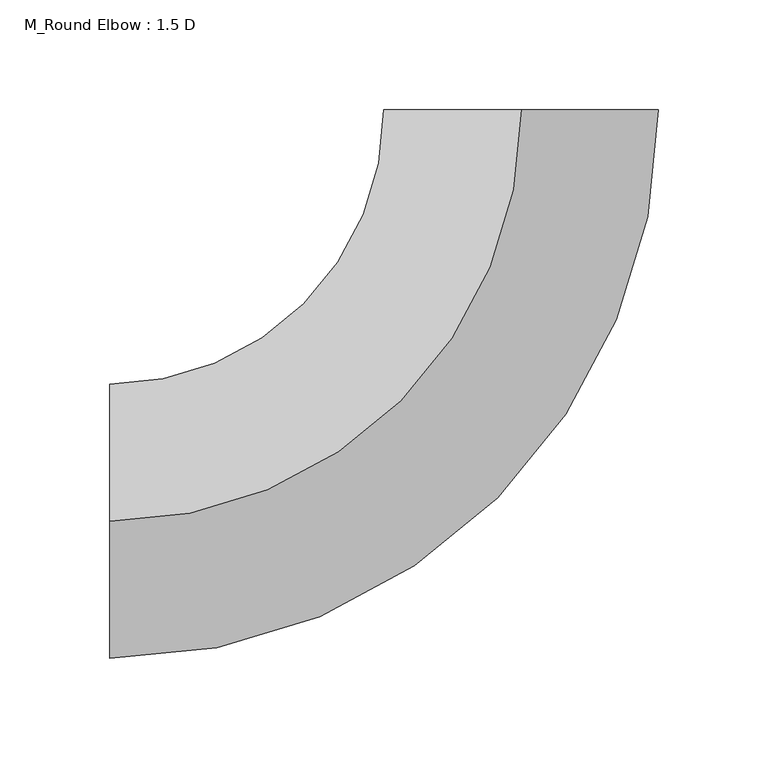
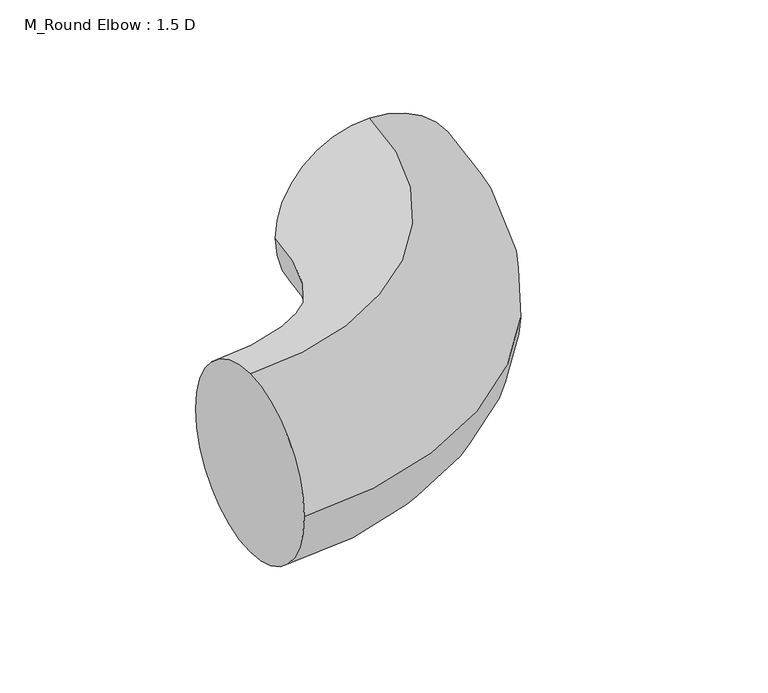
"""IFC4 building model written with IfcOpenShell, lengths in millimetres: duct fitting geometry, M_Round Elbow : 1.5 D."""

from ifc_helpers import new_model, si_unit, point, frame, origin, place, context, project, spatial, circle_curve, ellipse_curve, trimmed, source, transform, mapped, element, save
from ifc_brep_helpers import plane_surface, revolved_surface, advanced_brep


def m_round_elbow_1_5_d_eb77d9a7(model_context):
    return source(origin(), model_context, "Body", "AdvancedBrep", [
        advanced_brep(
        [(-187.5, 0.0, 62.5), (-187.5, 62.5, 0.0), (-187.5, 0.0, -62.5), (-187.5, -62.5, 0.0), (0.0, 187.5, 62.5), (62.5, 187.5, 0.0), (0.0, 187.5, -62.5), (-62.5, 187.5, 0.0)],
        [
            (0, 1, circle_curve(frame((-187.5, 0.0, 0.0), z_axis=(-1.0, 0.0, 0.0), x_axis=(0.0, 1.0, 0.0)), 62.5)),
            (1, 2, circle_curve(frame((-187.5, 0.0, 0.0), z_axis=(-1.0, 0.0, 0.0), x_axis=(0.0, 1.0, 0.0)), 62.5)),
            (2, 3, circle_curve(frame((-187.5, 0.0, 0.0), z_axis=(-1.0, 0.0, 0.0), x_axis=(0.0, 1.0, 0.0)), 62.5)),
            (3, 0, circle_curve(frame((-187.5, 0.0, 0.0), z_axis=(-1.0, 0.0, 0.0), x_axis=(0.0, 1.0, 0.0)), 62.5)),
            (4, 5, circle_curve(frame((0.0, 187.5, 0.0), z_axis=(0.0, 1.0, 0.0), x_axis=(-1.0, 0.0, 0.0)), 62.5)),
            (5, 6, circle_curve(frame((0.0, 187.5, 0.0), z_axis=(0.0, 1.0, 0.0), x_axis=(-1.0, 0.0, 0.0)), 62.5)),
            (6, 7, circle_curve(frame((0.0, 187.5, 0.0), z_axis=(0.0, 1.0, 0.0), x_axis=(-1.0, 0.0, 0.0)), 62.5)),
            (7, 4, circle_curve(frame((0.0, 187.5, 0.0), z_axis=(0.0, 1.0, 0.0), x_axis=(-1.0, 0.0, 0.0)), 62.5)),
            (7, 1, circle_curve(frame((-187.5, 187.5, 0.0), z_axis=(0.0, 0.0, -1.0), x_axis=(0.0, -1.0, 0.0)), 125.0)),
            (0, 4, circle_curve(frame((-187.5, 187.5, 62.5), z_axis=(0.0, 0.0, 1.0), x_axis=(0.0, -1.0, 0.0)), 187.5)),
            (6, 2, circle_curve(frame((-187.5, 187.5, -62.5), z_axis=(0.0, 0.0, -1.0), x_axis=(0.0, -1.0, 0.0)), 187.5)),
            (5, 3, circle_curve(frame((-187.5, 187.5, 0.0), z_axis=(0.0, 0.0, -1.0), x_axis=(0.0, -1.0, 0.0)), 250.0)),
        ],
        [
            plane_surface(frame((-187.5, 0.0, 0.0), z_axis=(-1.0, 0.0, 0.0), x_axis=(0.0, 0.0, 1.0))),
            plane_surface(frame((0.0, 187.5, 0.0), z_axis=(0.0, 1.0, 0.0), x_axis=(0.0, 0.0, 1.0))),
            revolved_surface(trimmed(ellipse_curve(frame((-187.5, 0.0, 0.0), z_axis=(-1.0, 0.0, 0.0), x_axis=(0.0, 1.0, 0.0)), 62.5, 62.5), [point((-187.5, 0.0, 62.5))], [point((-187.5, 62.5, 0.0))], True, "CARTESIAN"), (-187.5, 187.5, 0.0), (0.0, 0.0, 1.0)),
            revolved_surface(trimmed(ellipse_curve(frame((-187.5, 0.0, 0.0), z_axis=(-1.0, 0.0, 0.0), x_axis=(0.0, 1.0, 0.0)), 62.5, 62.5), [point((-187.5, 62.5, 0.0))], [point((-187.5, 0.0, -62.5))], True, "CARTESIAN"), (-187.5, 187.5, 0.0), (0.0, 0.0, 1.0)),
            revolved_surface(trimmed(ellipse_curve(frame((-187.5, 0.0, 0.0), z_axis=(-1.0, 0.0, 0.0), x_axis=(0.0, 1.0, 0.0)), 62.5, 62.5), [point((-187.5, 0.0, -62.5))], [point((-187.5, -62.5, 0.0))], True, "CARTESIAN"), (-187.5, 187.5, 0.0), (0.0, 0.0, 1.0)),
            revolved_surface(trimmed(ellipse_curve(frame((-187.5, 0.0, 0.0), z_axis=(-1.0, 0.0, 0.0), x_axis=(0.0, 1.0, 0.0)), 62.5, 62.5), [point((-187.5, -62.5, 0.0))], [point((-187.5, 0.0, 62.5))], True, "CARTESIAN"), (-187.5, 187.5, 0.0), (0.0, 0.0, 1.0)),
        ],
        [
            (0, [[1, 2, 3, 4]]),
            (1, [[5, 6, 7, 8]]),
            (2, [[9, -1, 10, -8]]),
            (3, [[11, -2, -9, -7]]),
            (4, [[12, -3, -11, -6]]),
            (5, [[-10, -4, -12, -5]]),
        ],
    ),
    ])


if __name__ == "__main__":
    model = new_model("IFC4")
    model_context = context("Model", 3, world=origin())
    ifc_project = project(units=[si_unit("LENGTHUNIT", "METRE", prefix="MILLI")], contexts=[model_context])
    site = spatial("IfcSite", under=ifc_project)
    building = spatial("IfcBuilding", under=site)
    placement = place(None, origin())
    m_round_elbow_1_5_d_shape = m_round_elbow_1_5_d_eb77d9a7(model_context)
    element("IfcDuctFitting", 1, ObjectType="M_Round Elbow : 1.5 D", at=placement, inside=building, context=model_context, shape_type="MappedRepresentation", body=[
        mapped(m_round_elbow_1_5_d_shape, transform((0.0, 0.0, 0.0), x_axis=(1.0, 0.0, 0.0), y_axis=(0.0, 1.0, 0.0), z_axis=(0.0, 0.0, 1.0))),
    ])
    save(model, "model.ifc")
